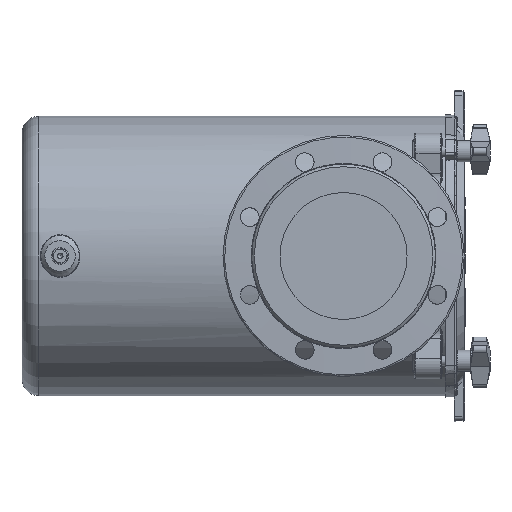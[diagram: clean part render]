
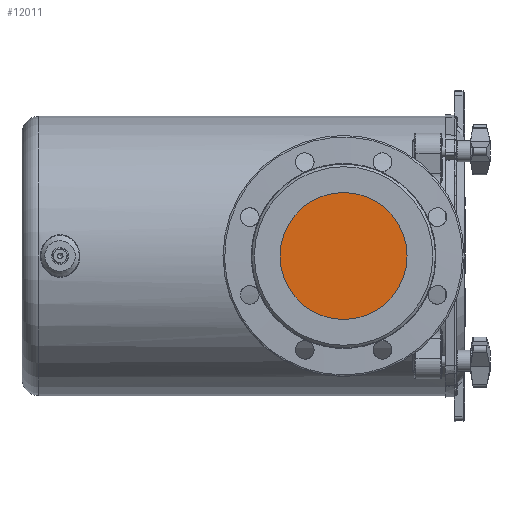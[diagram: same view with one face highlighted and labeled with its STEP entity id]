
A CAD part, left-side view. The second image highlights one B-rep face of the part: STEP entity #12011.
In plain terms, the highlighted planar face has unit normal (-1, 0, 0).
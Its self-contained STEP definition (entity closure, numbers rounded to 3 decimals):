
#1430=PLANE('',#12588);
#1669=ORIENTED_EDGE('',*,*,#4088,.F.);
#4088=EDGE_CURVE('',#5303,#5303,#6092,.T.);
#5303=VERTEX_POINT('',#15838);
#6092=CIRCLE('',#12589,75.);
#6579=EDGE_LOOP('',(#1669));
#7290=FACE_BOUND('',#6579,.T.);
#12011=ADVANCED_FACE('',(#7290),#1430,.F.);
#12588=AXIS2_PLACEMENT_3D('',#15836,#13577,#13578);
#12589=AXIS2_PLACEMENT_3D('',#15837,#13579,#13580);
#13577=DIRECTION('',(1.,0.,0.));
#13578=DIRECTION('',(0.,0.,-1.));
#13579=DIRECTION('',(1.,0.,0.));
#13580=DIRECTION('',(0.,0.,-1.));
#15836=CARTESIAN_POINT('',(-215.,123.,0.));
#15837=CARTESIAN_POINT('',(-215.,123.,0.));
#15838=CARTESIAN_POINT('',(-215.,123.,-75.));
